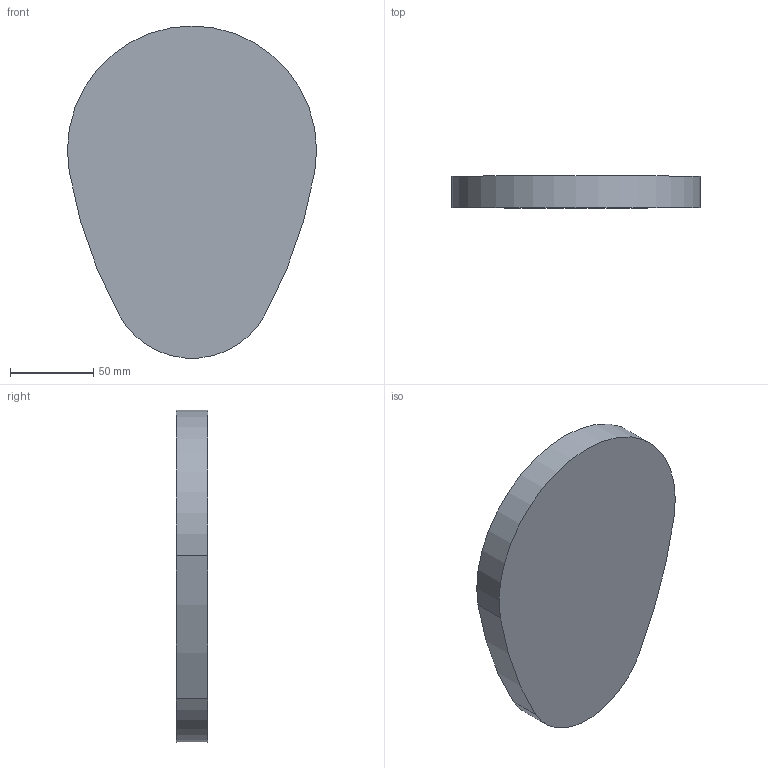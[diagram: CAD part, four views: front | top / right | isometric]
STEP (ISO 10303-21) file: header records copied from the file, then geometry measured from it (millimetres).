
FILE_DESCRIPTION(/* description */ (''),/* implementation_level */ '2;1');
FILE_NAME(/* name */ 'Z:\CAD Files\Development\Workspace\Easter Sale 24\EEH- Egg Tray.stp',/* time_stamp */ '2024-03-08T15:07:55+11:00',/* author */ ('Tyler'),/* organization */ (''),/* preprocessor_version */ 'ST-DEVELOPER v17',/* originating_system */ 'Autodesk Inventor 2019',/* authorisation */ '');
FILE_SCHEMA (('AUTOMOTIVE_DESIGN { 1 0 10303 214 3 1 1 }'));
Length unit declared in the file: millimetre
Products named in the file (1): EEH- Egg Tray
Bounding box: 150 x 19 x 199.83 mm (x, y, z)
Volume: 279839.6 mm3; surface area: 69670.9 mm2
Topology: 1 solids, 1 shells, 38 faces, 96 edges, 64 vertices
Faces by surface type: bspline 20, cylinder 12, plane 6
Entity records: 2179 total; most frequent: CARTESIAN_POINT 1383, ORIENTED_EDGE 192, EDGE_CURVE 96, DIRECTION 94, B_SPLINE_CURVE_WITH_KNOTS 64, VERTEX_POINT 64, AXIS2_PLACEMENT_3D 43, EDGE_LOOP 42
